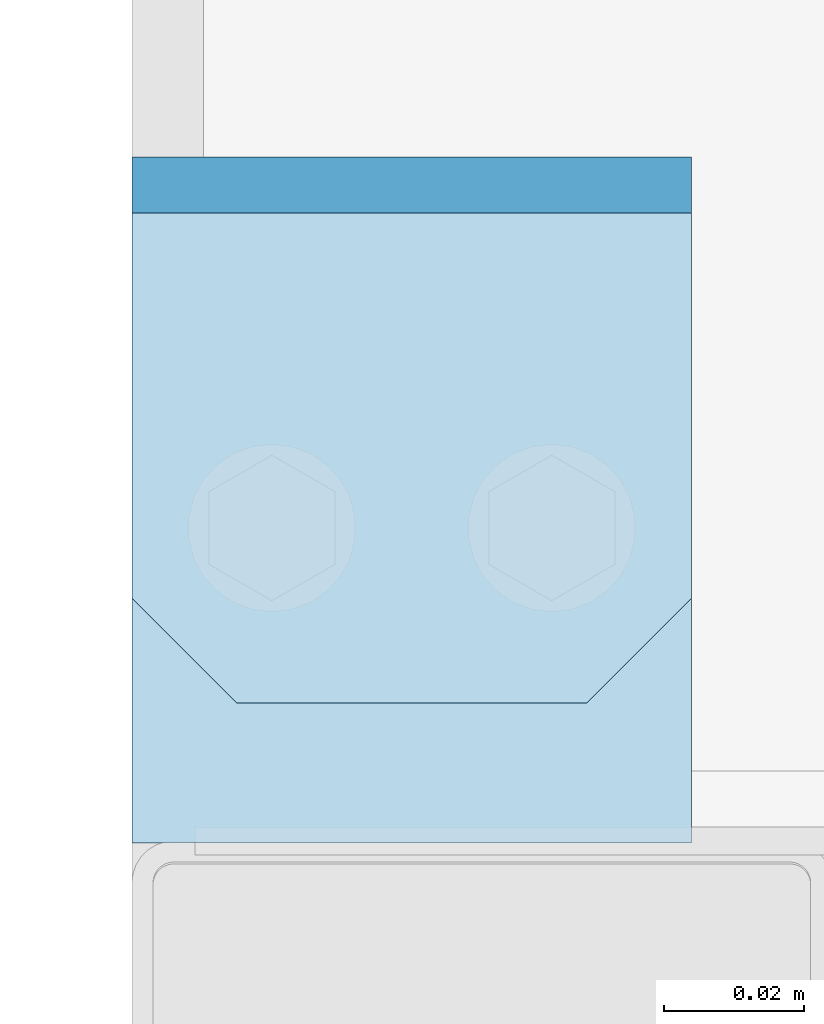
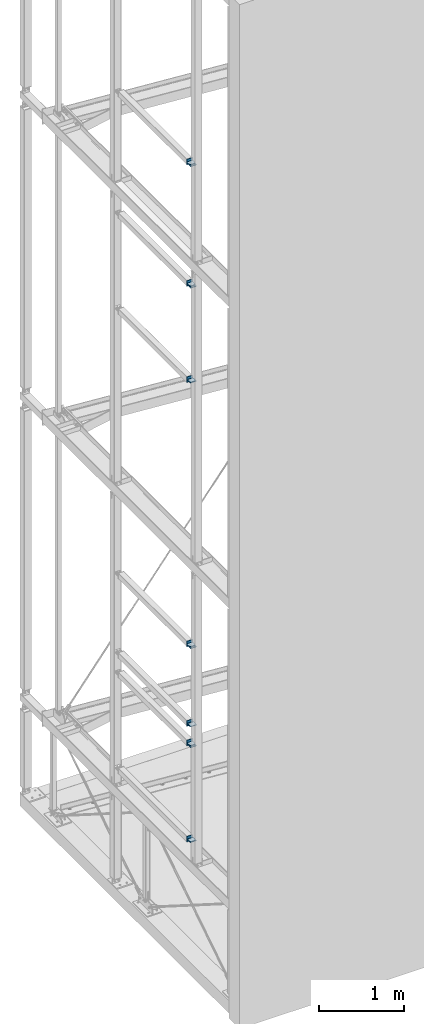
# One storey, part 101 of 271: 21 plates, 10 elements without a shape of their own.
"""IFC2X3 building model written with IfcOpenShell, lengths in millimetres."""

import ifcopenshell
import ifcopenshell.guid

model = None  # the IFC model being written
_history = None  # IfcOwnerHistory: only IFC2X3 demands one
_inside = {}  # id of a spatial element -> (the spatial element, [elements in it])
_under = {}  # id of a project, library or spatial element -> (it, [spatial elements below it])
_declared = {}  # id of a project -> (the project, [libraries it declares])
_typed = {}  # id of a type object -> (the type object, [elements of that type])
_made_of = {}  # id of a material, layer set ... -> (it, [elements and type objects made of it])


def new_model(schema):
    """Start an empty IFC model of exactly this schema.

    Asked for "IFC4X3", IfcOpenShell would pick the latest addendum, in which some entities
    have other attributes; the version numbers below select the first issue.
    IFC2X3 requires an IfcOwnerHistory on every rooted entity: one is made here for all.
    """
    global model, _history
    if schema == "IFC4X3":
        model = ifcopenshell.file(schema_version=(4, 3, 0, 0))
    else:
        model = ifcopenshell.file(schema=schema)
    _inside.clear()
    _under.clear()
    _declared.clear()
    _typed.clear()
    _made_of.clear()
    _history = None
    if model.schema == "IFC2X3":
        org = make("IfcOrganization", Name="unknown")
        user = make(
            "IfcPersonAndOrganization",
            ThePerson=make("IfcPerson", FamilyName="unknown"),
            TheOrganization=org,
        )
        app = make(
            "IfcApplication",
            ApplicationDeveloper=org,
            Version="unknown",
            ApplicationFullName="unknown",
            ApplicationIdentifier="unknown",
        )
        _history = make(
            "IfcOwnerHistory",
            OwningUser=user,
            OwningApplication=app,
            ChangeAction="ADDED",
            CreationDate=0,
        )
    return model


def make(cls, **values):
    """One entity of the class cls with the attributes given. An attribute that is None is left unset."""
    return model.create_entity(
        cls, **{name: value for name, value in values.items() if value is not None}
    )


def rooted(cls, **values):
    """An entity with a GlobalId (a new one), such as an element, a storey or a relation."""
    return make(cls, GlobalId=ifcopenshell.guid.new(), OwnerHistory=_history, **values)


def si_unit(unit_type, name, prefix=None):
    """IfcSIUnit, for example si_unit("LENGTHUNIT", "METRE", prefix="MILLI")."""
    return make("IfcSIUnit", UnitType=unit_type, Prefix=prefix, Name=name)


def assignment(units):
    """IfcUnitAssignment: the units of a project."""
    return None if units is None else make("IfcUnitAssignment", Units=units)


def point(xyz):
    """IfcCartesianPoint."""
    return None if xyz is None else make("IfcCartesianPoint", Coordinates=xyz)


def direction(xyz):
    """IfcDirection."""
    return None if xyz is None else make("IfcDirection", DirectionRatios=xyz)


def frame(location, z_axis=None, x_axis=None):
    """IfcAxis2Placement3D, a coordinate frame: its origin and axes. An axis left out is left unset."""
    return make(
        "IfcAxis2Placement3D",
        Location=point(location),
        Axis=direction(z_axis),
        RefDirection=direction(x_axis),
    )


def origin_with_axes():
    """The frame at (0, 0, 0) with the z axis (0, 0, 1) and the x axis (1, 0, 0) written out."""
    return frame((0.0, 0.0, 0.0), z_axis=(0.0, 0.0, 1.0), x_axis=(1.0, 0.0, 0.0))


def place(relative_to, where):
    """IfcLocalPlacement: puts the frame where relative to a parent placement (None: the world)."""
    return make(
        "IfcLocalPlacement", PlacementRelTo=relative_to, RelativePlacement=where
    )


def context(
    kind, dimensions, precision=None, world=None, true_north=None, identifier=None
):
    """IfcGeometricRepresentationContext, for example the 3D "Model" context."""
    return make(
        "IfcGeometricRepresentationContext",
        ContextIdentifier=identifier,
        ContextType=kind,
        CoordinateSpaceDimension=dimensions,
        Precision=precision,
        WorldCoordinateSystem=world,
        TrueNorth=true_north,
    )


def subcontext(parent, identifier, kind, view, scale=None):
    """IfcGeometricRepresentationSubContext, for example "Body" below "Model"."""
    return make(
        "IfcGeometricRepresentationSubContext",
        ContextIdentifier=identifier,
        ContextType=kind,
        ParentContext=parent,
        TargetScale=scale,
        TargetView=view,
    )


def project(units=None, contexts=None):
    """IfcProject with its units and contexts."""
    return rooted(
        "IfcProject",
        Name="project",
        RepresentationContexts=contexts,
        UnitsInContext=assignment(units),
    )


def spatial(cls, under=None, at=None, **own):
    """A site, building, storey or space (cls), placed at a placement, below another one or the project."""
    s = rooted(cls, ObjectPlacement=at, **own)
    if under is not None:
        _under.setdefault(under.id(), (under, []))[1].append(s)
    return s


def polyline(points):
    """IfcPolyline through the points."""
    return make("IfcPolyline", Points=[point(p) for p in points])


def outline(outer, holes=None, kind="AREA"):
    """IfcArbitraryClosedProfileDef: a profile drawn as a closed curve; with holes, ...WithVoids."""
    if holes is None:
        return make("IfcArbitraryClosedProfileDef", ProfileType=kind, OuterCurve=outer)
    return make(
        "IfcArbitraryProfileDefWithVoids",
        ProfileType=kind,
        OuterCurve=outer,
        InnerCurves=holes,
    )


def extrude(swept, where, along, depth):
    """IfcExtrudedAreaSolid: the profile swept, set in the frame where, extruded along a direction by depth."""
    return make(
        "IfcExtrudedAreaSolid",
        SweptArea=swept,
        Position=where,
        ExtrudedDirection=direction(along),
        Depth=depth,
    )


def shape(context_of_items, identifier, shape_type, items):
    """IfcShapeRepresentation: the items that make up one representation, for example the "Body"."""
    return make(
        "IfcShapeRepresentation",
        ContextOfItems=context_of_items,
        RepresentationIdentifier=identifier,
        RepresentationType=shape_type,
        Items=items,
    )


def material(Name=None, Category=None):
    """IfcMaterial."""
    return make("IfcMaterial", Name=Name, Category=Category)


def made_of(thing, what):
    """Note that an element or type object is made of a material, layer set ...; save() writes the relation."""
    if what is not None:
        _made_of.setdefault(what.id(), (what, []))[1].append(thing)
    return thing


def type_object(cls, material=None, **own):
    """A type object (cls), such as IfcWallType, which elements share."""
    return made_of(rooted(cls, **own), material)


def element(
    cls,
    number,
    at=None,
    inside=None,
    cuts=None,
    type_object=None,
    material=None,
    context=None,
    identifier="Body",
    shape_type=None,
    held_by="IfcProductDefinitionShape",
    body=None,
    shapes=None,
    **own,
):
    """One element of the class cls, such as IfcWall. Its Tag is "e" and its number.

    at: its placement. inside: the storey or other place that contains it. cuts: it is an
    opening in that element (IfcRelVoidsElement). A single representation is given by context,
    identifier, shape_type and body (its items); several are given by shapes. held_by: the class
    of the entity that holds the representations. save() writes the other relations.
    """
    e = rooted(cls, Tag="e%d" % number, ObjectPlacement=at, **own)
    if body is not None:
        shapes = [shape(context, identifier, shape_type, body)]
    if shapes is not None:
        e.Representation = make(held_by, Representations=shapes)
    if inside is not None:
        _inside.setdefault(inside.id(), (inside, []))[1].append(e)
    if cuts is not None:
        rooted(
            "IfcRelVoidsElement", RelatingBuildingElement=cuts, RelatedOpeningElement=e
        )
    if type_object is not None:
        _typed.setdefault(type_object.id(), (type_object, []))[1].append(e)
    return made_of(e, material)


def aggregate(whole, parts):
    """IfcRelAggregates: a whole, such as a stair, and the parts it consists of."""
    return rooted("IfcRelAggregates", RelatingObject=whole, RelatedObjects=parts)


def save(model, path):
    """Write the relations noted so far, then the file.

    IfcRelAggregates (storeys below a building ...), IfcRelContainedInSpatialStructure (elements
    in a storey), IfcRelDefinesByType, IfcRelAssociatesMaterial and IfcRelDeclares: one each for
    every whole, place, type object, material and project.
    """
    for whole, parts in _under.values():
        aggregate(whole, parts)
    for where, things in _inside.values():
        rooted(
            "IfcRelContainedInSpatialStructure",
            RelatedElements=things,
            RelatingStructure=where,
        )
    for kind, things in _typed.values():
        rooted("IfcRelDefinesByType", RelatedObjects=things, RelatingType=kind)
    for what, things in _made_of.values():
        rooted("IfcRelAssociatesMaterial", RelatedObjects=things, RelatingMaterial=what)
    for by, libraries in _declared.values():
        rooted("IfcRelDeclares", RelatingContext=by, RelatedDefinitions=libraries)
    model.write(path)


model = new_model("IFC2X3")

# Units and contexts
model_context = context("Model", 3, precision=1e-05, world=origin_with_axes())
body_context = subcontext(model_context, "Body", "Model", "MODEL_VIEW")
ifc_project = project(units=[si_unit("LENGTHUNIT", "METRE", prefix="MILLI"), si_unit("AREAUNIT", "SQUARE_METRE"), si_unit("VOLUMEUNIT", "CUBIC_METRE"), si_unit("MASSUNIT", "GRAM", prefix="KILO"), si_unit("TIMEUNIT", "SECOND"), si_unit("PLANEANGLEUNIT", "RADIAN"), si_unit("SOLIDANGLEUNIT", "STERADIAN"), si_unit("THERMODYNAMICTEMPERATUREUNIT", "DEGREE_CELSIUS"), si_unit("LUMINOUSINTENSITYUNIT", "LUMEN")], contexts=[model_context])

# Site, building, storey
site_placement = place(None, origin_with_axes())
site = spatial("IfcSite", under=ifc_project, at=site_placement, Name="Undefined", CompositionType="ELEMENT")
building_placement = place(site_placement, origin_with_axes())
building = spatial("IfcBuilding", under=site, at=building_placement, Name="Undefined", CompositionType="ELEMENT")
storey_placement = place(building_placement, origin_with_axes())
storey = spatial("IfcBuildingStorey", under=building, at=storey_placement, Name="Undefined", CompositionType="ELEMENT", Elevation=0.0)

# Assembly, plate
assembly_1_placement = place(storey_placement, origin_with_axes())
assembly_1 = element("IfcElementAssembly", 1, at=assembly_1_placement, inside=storey, AssemblyPlace="NOTDEFINED", PredefinedType="RIGID_FRAME")
ifc_material = material(Name="STEEL/S355JR")
plate_type_1 = type_object("IfcPlateType", Name="BL10*70", PredefinedType="NOTDEFINED")
plate_1_placement = place(assembly_1_placement, frame((-11.624312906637, 984.052119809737, 4498.8500000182), z_axis=(0.0, 0.0, 1.0), x_axis=(0.707106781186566, -0.707106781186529, 0.0)))
plate_1 = element("IfcPlate", 2, at=plate_1_placement, type_object=plate_type_1, material=ifc_material, Name="BLACHA", ObjectType="BL10*70", context=body_context, shape_type="SweptSolid", body=[
    extrude(outline(polyline([(0.0, 0.0), (21.2132034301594, 1.09139364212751e-11), (56.5685424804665, 35.3553390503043), (56.568542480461, 56.5685424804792), (17.6776695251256, 95.4594192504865), (-38.890872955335, 38.8908729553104), (0.0, 0.0)])), frame((0.0, 0.0, -5.0), z_axis=(0.0, 0.0, 1.0), x_axis=(1.0, 0.0, 0.0)), (0.0, 0.0, 1.0), 10.0),
])

assembly_2_placement = place(storey_placement, origin_with_axes())
assembly_2 = element("IfcElementAssembly", 3, at=assembly_2_placement, inside=storey, AssemblyPlace="NOTDEFINED", PredefinedType="RIGID_FRAME")
plate_2_placement = place(assembly_2_placement, frame((-11.624312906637, 949.052119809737, 4488.8500000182), z_axis=(0.0, 0.0, 1.0), x_axis=(1.0, 0.0, 0.0)))
plate_2 = element("IfcPlate", 4, at=plate_2_placement, type_object=plate_type_1, material=ifc_material, Name="BLACHA", ObjectType="BL10*70", context=body_context, shape_type="SweptSolid", body=[
    extrude(outline(polyline([(0.0, 0.0), (80.0, 0.0), (80.0, 70.0), (0.0, 70.0), (0.0, 0.0)])), frame((0.0, 0.0, -5.0), z_axis=(0.0, 0.0, 1.0), x_axis=(1.0, 0.0, 0.0)), (0.0, 0.0, 1.0), 10.0),
])

assembly_3_placement = place(storey_placement, origin_with_axes())
assembly_3 = element("IfcElementAssembly", 5, at=assembly_3_placement, inside=storey, AssemblyPlace="NOTDEFINED", PredefinedType="RIGID_FRAME")
plate_3_placement = place(assembly_3_placement, frame((68.375687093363, 984.052119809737, 3358.8500000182), z_axis=(0.0, 0.0, -1.0), x_axis=(-0.707106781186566, -0.707106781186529, 0.0)))
plate_3 = element("IfcPlate", 6, at=plate_3_placement, type_object=plate_type_1, material=ifc_material, Name="BLACHA", ObjectType="BL10*70", context=body_context, shape_type="SweptSolid", body=[
    extrude(outline(polyline([(0.0, 0.0), (21.2132034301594, 1.09139364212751e-11), (56.5685424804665, 35.3553390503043), (56.568542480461, 56.5685424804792), (17.6776695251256, 95.4594192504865), (-38.890872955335, 38.8908729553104), (0.0, 0.0)])), frame((0.0, 0.0, -5.0), z_axis=(0.0, 0.0, 1.0), x_axis=(1.0, 0.0, 0.0)), (0.0, 0.0, 1.0), 10.0),
])

# Plate
plate_4_placement = place(assembly_2_placement, frame((68.375687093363, 949.052119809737, 3368.8500000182), z_axis=(0.0, 0.0, -1.0), x_axis=(-1.0, 0.0, 1.38777878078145e-17)))
plate_4 = element("IfcPlate", 7, at=plate_4_placement, type_object=plate_type_1, material=ifc_material, Name="BLACHA", ObjectType="BL10*70", context=body_context, shape_type="SweptSolid", body=[
    extrude(outline(polyline([(0.0, 0.0), (80.0, 0.0), (80.0, 70.0), (0.0, 70.0), (0.0, 0.0)])), frame((0.0, 0.0, -5.0), z_axis=(0.0, 0.0, 1.0), x_axis=(1.0, 0.0, 0.0)), (0.0, 0.0, 1.0), 10.0),
])

# Assembly, plate
assembly_4_placement = place(storey_placement, origin_with_axes())
assembly_4 = element("IfcElementAssembly", 8, at=assembly_4_placement, inside=storey, AssemblyPlace="NOTDEFINED", PredefinedType="RIGID_FRAME")
plate_5_placement = place(assembly_4_placement, frame((-11.624312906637, 984.052119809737, 3079.3500000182), z_axis=(0.0, 0.0, 1.0), x_axis=(0.707106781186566, -0.707106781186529, 0.0)))
plate_5 = element("IfcPlate", 9, at=plate_5_placement, type_object=plate_type_1, material=ifc_material, Name="BLACHA", ObjectType="BL10*70", context=body_context, shape_type="SweptSolid", body=[
    extrude(outline(polyline([(0.0, 0.0), (21.2132034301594, 1.09139364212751e-11), (56.5685424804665, 35.3553390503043), (56.568542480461, 56.5685424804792), (17.6776695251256, 95.4594192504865), (-38.890872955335, 38.8908729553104), (0.0, 0.0)])), frame((0.0, 0.0, -5.0), z_axis=(0.0, 0.0, 1.0), x_axis=(1.0, 0.0, 0.0)), (0.0, 0.0, 1.0), 10.0),
])

# Plate
plate_6_placement = place(assembly_2_placement, frame((-11.624312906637, 949.052119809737, 3069.3500000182), z_axis=(0.0, 0.0, 1.0), x_axis=(1.0, 0.0, 0.0)))
plate_6 = element("IfcPlate", 10, at=plate_6_placement, type_object=plate_type_1, material=ifc_material, Name="BLACHA", ObjectType="BL10*70", context=body_context, shape_type="SweptSolid", body=[
    extrude(outline(polyline([(0.0, 0.0), (80.0, 0.0), (80.0, 70.0), (0.0, 70.0), (0.0, 0.0)])), frame((0.0, 0.0, -5.0), z_axis=(0.0, 0.0, 1.0), x_axis=(1.0, 0.0, 0.0)), (0.0, 0.0, 1.0), 10.0),
])

# Assembly, plate
assembly_5_placement = place(storey_placement, origin_with_axes())
assembly_5 = element("IfcElementAssembly", 11, at=assembly_5_placement, inside=storey, AssemblyPlace="NOTDEFINED", PredefinedType="RIGID_FRAME")
plate_7_placement = place(assembly_5_placement, frame((68.375687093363, 984.052119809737, 1699.3500000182), z_axis=(0.0, 0.0, -1.0), x_axis=(-0.707106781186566, -0.707106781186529, 0.0)))
plate_7 = element("IfcPlate", 12, at=plate_7_placement, type_object=plate_type_1, material=ifc_material, Name="BLACHA", ObjectType="BL10*70", context=body_context, shape_type="SweptSolid", body=[
    extrude(outline(polyline([(0.0, 0.0), (21.2132034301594, 1.09139364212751e-11), (56.5685424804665, 35.3553390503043), (56.568542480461, 56.5685424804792), (17.6776695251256, 95.4594192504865), (-38.890872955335, 38.8908729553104), (0.0, 0.0)])), frame((0.0, 0.0, -5.0), z_axis=(0.0, 0.0, 1.0), x_axis=(1.0, 0.0, 0.0)), (0.0, 0.0, 1.0), 10.0),
])

# Plate
plate_8_placement = place(assembly_2_placement, frame((68.375687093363, 949.052119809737, 1709.3500000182), z_axis=(0.0, 0.0, -1.0), x_axis=(-1.0, 0.0, 1.38777878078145e-17)))
plate_8 = element("IfcPlate", 13, at=plate_8_placement, type_object=plate_type_1, material=ifc_material, Name="BLACHA", ObjectType="BL10*70", context=body_context, shape_type="SweptSolid", body=[
    extrude(outline(polyline([(0.0, 0.0), (80.0, 0.0), (80.0, 70.0), (0.0, 70.0), (0.0, 0.0)])), frame((0.0, 0.0, -5.0), z_axis=(0.0, 0.0, 1.0), x_axis=(1.0, 0.0, 0.0)), (0.0, 0.0, 1.0), 10.0),
])

aggregate(assembly_2, [plate_2, plate_4, plate_6, plate_8])

# Assembly, plate
assembly_6_placement = place(storey_placement, origin_with_axes())
assembly_6 = element("IfcElementAssembly", 14, at=assembly_6_placement, inside=storey, AssemblyPlace="NOTDEFINED", PredefinedType="RIGID_FRAME")
plate_9_placement = place(assembly_6_placement, frame((-11.624312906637, 984.052119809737, 9669.84999990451), z_axis=(0.0, 0.0, 1.0), x_axis=(0.707106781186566, -0.707106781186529, 0.0)))
plate_9 = element("IfcPlate", 15, at=plate_9_placement, type_object=plate_type_1, material=ifc_material, Name="BLACHA", ObjectType="BL10*70", context=body_context, shape_type="SweptSolid", body=[
    extrude(outline(polyline([(0.0, 0.0), (21.2132034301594, 1.09139364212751e-11), (56.5685424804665, 35.3553390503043), (56.568542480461, 56.5685424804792), (17.6776695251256, 95.4594192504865), (-38.890872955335, 38.8908729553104), (0.0, 0.0)])), frame((0.0, 0.0, -5.0), z_axis=(0.0, 0.0, 1.0), x_axis=(1.0, 0.0, 0.0)), (0.0, 0.0, 1.0), 10.0),
])

assembly_7_placement = place(storey_placement, origin_with_axes())
assembly_7 = element("IfcElementAssembly", 16, at=assembly_7_placement, inside=storey, AssemblyPlace="NOTDEFINED", PredefinedType="RIGID_FRAME")
plate_10_placement = place(assembly_7_placement, frame((-11.624312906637, 949.052119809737, 9659.84999990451), z_axis=(0.0, 0.0, 1.0), x_axis=(1.0, 0.0, 0.0)))
plate_10 = element("IfcPlate", 17, at=plate_10_placement, type_object=plate_type_1, material=ifc_material, Name="BLACHA", ObjectType="BL10*70", context=body_context, shape_type="SweptSolid", body=[
    extrude(outline(polyline([(0.0, 0.0), (80.0, 0.0), (80.0, 70.0), (0.0, 70.0), (0.0, 0.0)])), frame((0.0, 0.0, -5.0), z_axis=(0.0, 0.0, 1.0), x_axis=(1.0, 0.0, 0.0)), (0.0, 0.0, 1.0), 10.0),
])

assembly_8_placement = place(storey_placement, origin_with_axes())
assembly_8 = element("IfcElementAssembly", 18, at=assembly_8_placement, inside=storey, AssemblyPlace="NOTDEFINED", PredefinedType="RIGID_FRAME")
plate_11_placement = place(assembly_8_placement, frame((68.375687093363, 984.052119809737, 8289.84999990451), z_axis=(0.0, 0.0, -1.0), x_axis=(-0.707106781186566, -0.707106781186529, 0.0)))
plate_11 = element("IfcPlate", 19, at=plate_11_placement, type_object=plate_type_1, material=ifc_material, Name="BLACHA", ObjectType="BL10*70", context=body_context, shape_type="SweptSolid", body=[
    extrude(outline(polyline([(0.0, 0.0), (21.2132034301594, 1.09139364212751e-11), (56.5685424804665, 35.3553390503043), (56.568542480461, 56.5685424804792), (17.6776695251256, 95.4594192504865), (-38.890872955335, 38.8908729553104), (0.0, 0.0)])), frame((0.0, 0.0, -5.0), z_axis=(0.0, 0.0, 1.0), x_axis=(1.0, 0.0, 0.0)), (0.0, 0.0, 1.0), 10.0),
])

# Plate
plate_12_placement = place(assembly_7_placement, frame((68.375687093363, 949.052119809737, 8299.84999990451), z_axis=(0.0, 0.0, -1.0), x_axis=(-1.0, 0.0, 1.38777878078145e-17)))
plate_12 = element("IfcPlate", 20, at=plate_12_placement, type_object=plate_type_1, material=ifc_material, Name="BLACHA", ObjectType="BL10*70", context=body_context, shape_type="SweptSolid", body=[
    extrude(outline(polyline([(0.0, 0.0), (80.0, 0.0), (80.0, 70.0), (0.0, 70.0), (0.0, 0.0)])), frame((0.0, 0.0, -5.0), z_axis=(0.0, 0.0, 1.0), x_axis=(1.0, 0.0, 0.0)), (0.0, 0.0, 1.0), 10.0),
])

aggregate(assembly_7, [plate_10, plate_12])

# Assembly, plate
assembly_9_placement = place(storey_placement, origin_with_axes())
assembly_9 = element("IfcElementAssembly", 21, at=assembly_9_placement, inside=storey, AssemblyPlace="NOTDEFINED", PredefinedType="RIGID_FRAME")
plate_13_placement = place(assembly_9_placement, frame((-11.624312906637, 984.052119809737, 11411.8499999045), z_axis=(0.0, 0.0, 1.0), x_axis=(0.707106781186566, -0.707106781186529, 0.0)))
plate_13 = element("IfcPlate", 22, at=plate_13_placement, type_object=plate_type_1, material=ifc_material, Name="BLACHA", ObjectType="BL10*70", context=body_context, shape_type="SweptSolid", body=[
    extrude(outline(polyline([(0.0, 0.0), (21.2132034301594, 1.09139364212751e-11), (56.5685424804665, 35.3553390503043), (56.568542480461, 56.5685424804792), (17.6776695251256, 95.4594192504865), (-38.890872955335, 38.8908729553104), (0.0, 0.0)])), frame((0.0, 0.0, -5.0), z_axis=(0.0, 0.0, 1.0), x_axis=(1.0, 0.0, 0.0)), (0.0, 0.0, 1.0), 10.0),
])

assembly_10_placement = place(storey_placement, origin_with_axes())
assembly_10 = element("IfcElementAssembly", 23, at=assembly_10_placement, inside=storey, AssemblyPlace="NOTDEFINED", PredefinedType="RIGID_FRAME")
plate_14_placement = place(assembly_10_placement, frame((-11.624312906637, 949.052119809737, 11401.8499999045), z_axis=(0.0, 0.0, 1.0), x_axis=(1.0, 0.0, 0.0)))
plate_14 = element("IfcPlate", 24, at=plate_14_placement, type_object=plate_type_1, material=ifc_material, Name="BLACHA", ObjectType="BL10*70", context=body_context, shape_type="SweptSolid", body=[
    extrude(outline(polyline([(0.0, 0.0), (80.0, 0.0), (80.0, 70.0), (0.0, 70.0), (0.0, 0.0)])), frame((0.0, 0.0, -5.0), z_axis=(0.0, 0.0, 1.0), x_axis=(1.0, 0.0, 0.0)), (0.0, 0.0, 1.0), 10.0),
])
aggregate(assembly_10, [plate_14])

# Plate
plate_type_2 = type_object("IfcPlateType", Name="BL8*80", PredefinedType="NOTDEFINED")
plate_15_placement = place(assembly_1_placement, frame((-11.624312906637, 1043.05211980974, 4458.8500000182), z_axis=(0.0, -1.0, 0.0), x_axis=(1.0, 0.0, 0.0)))
plate_15 = element("IfcPlate", 25, at=plate_15_placement, type_object=plate_type_2, material=ifc_material, Name="BLACHA", ObjectType="BL8*80", context=body_context, shape_type="SweptSolid", body=[
    extrude(outline(polyline([(0.0, 0.0), (80.0, 0.0), (80.0, 80.0), (0.0, 80.0), (0.0, 0.0)])), frame((0.0, 0.0, -4.0), z_axis=(0.0, 0.0, 1.0), x_axis=(1.0, 0.0, 0.0)), (0.0, 0.0, 1.0), 8.0),
])

aggregate(assembly_1, [plate_15, plate_1])

plate_16_placement = place(assembly_3_placement, frame((68.375687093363, 1043.05211980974, 3398.8500000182), z_axis=(0.0, -1.0, 0.0), x_axis=(-1.0, 0.0, 1.38777878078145e-17)))
plate_16 = element("IfcPlate", 26, at=plate_16_placement, type_object=plate_type_2, material=ifc_material, Name="BLACHA", ObjectType="BL8*80", context=body_context, shape_type="SweptSolid", body=[
    extrude(outline(polyline([(0.0, 0.0), (80.0, 0.0), (80.0, 80.0), (0.0, 80.0), (0.0, 0.0)])), frame((0.0, 0.0, -4.0), z_axis=(0.0, 0.0, 1.0), x_axis=(1.0, 0.0, 0.0)), (0.0, 0.0, 1.0), 8.0),
])

aggregate(assembly_3, [plate_16, plate_3])

plate_17_placement = place(assembly_4_placement, frame((-11.624312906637, 1043.05211980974, 3039.3500000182), z_axis=(0.0, -1.0, 0.0), x_axis=(1.0, 0.0, 0.0)))
plate_17 = element("IfcPlate", 27, at=plate_17_placement, type_object=plate_type_2, material=ifc_material, Name="BLACHA", ObjectType="BL8*80", context=body_context, shape_type="SweptSolid", body=[
    extrude(outline(polyline([(0.0, 0.0), (80.0, 0.0), (80.0, 80.0), (0.0, 80.0), (0.0, 0.0)])), frame((0.0, 0.0, -4.0), z_axis=(0.0, 0.0, 1.0), x_axis=(1.0, 0.0, 0.0)), (0.0, 0.0, 1.0), 8.0),
])

aggregate(assembly_4, [plate_17, plate_5])

plate_18_placement = place(assembly_5_placement, frame((68.375687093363, 1043.05211980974, 1739.3500000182), z_axis=(0.0, -1.0, 0.0), x_axis=(-1.0, 0.0, 1.38777878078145e-17)))
plate_18 = element("IfcPlate", 28, at=plate_18_placement, type_object=plate_type_2, material=ifc_material, Name="BLACHA", ObjectType="BL8*80", context=body_context, shape_type="SweptSolid", body=[
    extrude(outline(polyline([(0.0, 0.0), (80.0, 0.0), (80.0, 80.0), (0.0, 80.0), (0.0, 0.0)])), frame((0.0, 0.0, -4.0), z_axis=(0.0, 0.0, 1.0), x_axis=(1.0, 0.0, 0.0)), (0.0, 0.0, 1.0), 8.0),
])

aggregate(assembly_5, [plate_18, plate_7])

plate_19_placement = place(assembly_6_placement, frame((-11.624312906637, 1043.05211980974, 9629.84999990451), z_axis=(0.0, -1.0, 0.0), x_axis=(1.0, 0.0, 0.0)))
plate_19 = element("IfcPlate", 29, at=plate_19_placement, type_object=plate_type_2, material=ifc_material, Name="BLACHA", ObjectType="BL8*80", context=body_context, shape_type="SweptSolid", body=[
    extrude(outline(polyline([(0.0, 0.0), (80.0, 0.0), (80.0, 80.0), (0.0, 80.0), (0.0, 0.0)])), frame((0.0, 0.0, -4.0), z_axis=(0.0, 0.0, 1.0), x_axis=(1.0, 0.0, 0.0)), (0.0, 0.0, 1.0), 8.0),
])

aggregate(assembly_6, [plate_19, plate_9])

plate_20_placement = place(assembly_8_placement, frame((68.375687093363, 1043.05211980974, 8329.84999990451), z_axis=(0.0, -1.0, 0.0), x_axis=(-1.0, 0.0, 1.38777878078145e-17)))
plate_20 = element("IfcPlate", 30, at=plate_20_placement, type_object=plate_type_2, material=ifc_material, Name="BLACHA", ObjectType="BL8*80", context=body_context, shape_type="SweptSolid", body=[
    extrude(outline(polyline([(0.0, 0.0), (80.0, 0.0), (80.0, 80.0), (0.0, 80.0), (0.0, 0.0)])), frame((0.0, 0.0, -4.0), z_axis=(0.0, 0.0, 1.0), x_axis=(1.0, 0.0, 0.0)), (0.0, 0.0, 1.0), 8.0),
])

aggregate(assembly_8, [plate_20, plate_11])

plate_21_placement = place(assembly_9_placement, frame((-11.624312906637, 1043.05211980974, 11371.8499999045), z_axis=(0.0, -1.0, 0.0), x_axis=(1.0, 0.0, 0.0)))
plate_21 = element("IfcPlate", 31, at=plate_21_placement, type_object=plate_type_2, material=ifc_material, Name="BLACHA", ObjectType="BL8*80", context=body_context, shape_type="SweptSolid", body=[
    extrude(outline(polyline([(0.0, 0.0), (80.0, 0.0), (80.0, 80.0), (0.0, 80.0), (0.0, 0.0)])), frame((0.0, 0.0, -4.0), z_axis=(0.0, 0.0, 1.0), x_axis=(1.0, 0.0, 0.0)), (0.0, 0.0, 1.0), 8.0),
])

aggregate(assembly_9, [plate_21, plate_13])

save(model, "model.ifc")
